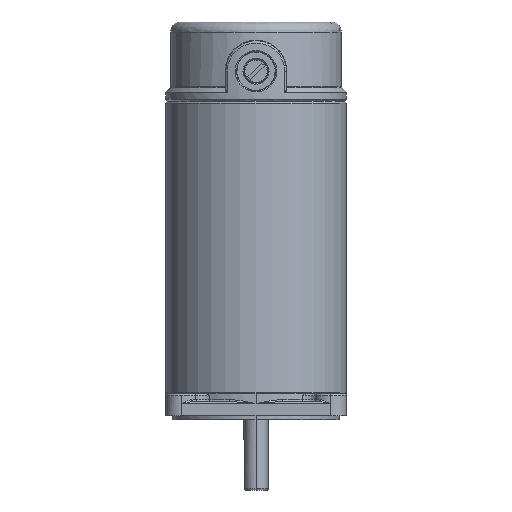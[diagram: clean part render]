
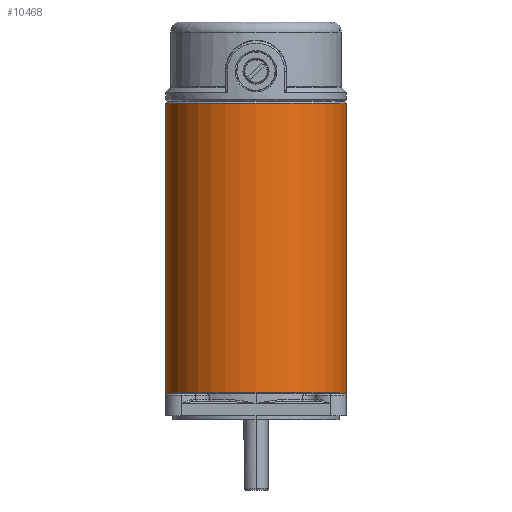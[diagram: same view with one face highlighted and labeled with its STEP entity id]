
A CAD part, left-side view. The second image highlights one B-rep face of the part: STEP entity #10468.
In plain terms, the highlighted cylindrical face has radius 45 mm (diameter 90 mm), a partial arc.
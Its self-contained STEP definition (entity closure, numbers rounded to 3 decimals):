
#626 = DIRECTION ( 'NONE',  ( 0., 0., -1. ) ) ;
#866 = AXIS2_PLACEMENT_3D ( 'NONE', #8576, #20393, #13244 ) ;
#1494 = CIRCLE ( 'NONE', #5364, 45. ) ;
#1718 = LINE ( 'NONE', #12099, #4807 ) ;
#2005 = ORIENTED_EDGE ( 'NONE', *, *, #15733, .T. ) ;
#3408 = VECTOR ( 'NONE', #626, 1000. ) ;
#4736 = CARTESIAN_POINT ( 'NONE',  ( 26.691, 61.063, 220.101 ) ) ;
#4807 = VECTOR ( 'NONE', #9887, 1000. ) ;
#5364 = AXIS2_PLACEMENT_3D ( 'NONE', #11398, #13059, #13824 ) ;
#5490 = LINE ( 'NONE', #15663, #3408 ) ;
#5842 = DIRECTION ( 'NONE',  ( 0., 0., -1. ) ) ;
#6084 = VERTEX_POINT ( 'NONE', #14912 ) ;
#6321 = DIRECTION ( 'NONE',  ( 0., 0., -1. ) ) ;
#6692 = VERTEX_POINT ( 'NONE', #4736 ) ;
#6855 = CIRCLE ( 'NONE', #866, 45. ) ;
#7822 = CIRCLE ( 'NONE', #11365, 45. ) ;
#8576 = CARTESIAN_POINT ( 'NONE',  ( 26.691, 16.063, 220.101 ) ) ;
#9887 = DIRECTION ( 'NONE',  ( 0., 0., -1. ) ) ;
#10468 = ADVANCED_FACE ( 'NONE', ( #17809 ), #11412, .T. ) ;
#10915 = EDGE_CURVE ( 'NONE', #6692, #10938, #5490, .T. ) ;
#10938 = VERTEX_POINT ( 'NONE', #18612 ) ;
#10939 = EDGE_CURVE ( 'NONE', #12343, #6084, #1718, .T. ) ;
#11365 = AXIS2_PLACEMENT_3D ( 'NONE', #14034, #5842, #20757 ) ;
#11398 = CARTESIAN_POINT ( 'NONE',  ( 26.691, 16.063, 75.929 ) ) ;
#11412 = CYLINDRICAL_SURFACE ( 'NONE', #20779, 45. ) ;
#12099 = CARTESIAN_POINT ( 'NONE',  ( 26.691, -28.937, 220.929 ) ) ;
#12343 = VERTEX_POINT ( 'NONE', #14546 ) ;
#12987 = ORIENTED_EDGE ( 'NONE', *, *, #15517, .T. ) ;
#13059 = DIRECTION ( 'NONE',  ( 0., 0., 1. ) ) ;
#13138 = EDGE_CURVE ( 'NONE', #21154, #6692, #6855, .T. ) ;
#13244 = DIRECTION ( 'NONE',  ( 0., 1., 0. ) ) ;
#13664 = ORIENTED_EDGE ( 'NONE', *, *, #10915, .T. ) ;
#13824 = DIRECTION ( 'NONE',  ( 0., 1., 0. ) ) ;
#14034 = CARTESIAN_POINT ( 'NONE',  ( 26.691, 16.063, 220.101 ) ) ;
#14546 = CARTESIAN_POINT ( 'NONE',  ( 26.691, -28.937, 220.101 ) ) ;
#14912 = CARTESIAN_POINT ( 'NONE',  ( 26.691, -28.937, 75.929 ) ) ;
#15517 = EDGE_CURVE ( 'NONE', #10938, #6084, #1494, .T. ) ;
#15536 = ORIENTED_EDGE ( 'NONE', *, *, #10939, .F. ) ;
#15663 = CARTESIAN_POINT ( 'NONE',  ( 26.691, 61.063, 220.929 ) ) ;
#15733 = EDGE_CURVE ( 'NONE', #12343, #21154, #7822, .T. ) ;
#15949 = DIRECTION ( 'NONE',  ( 0., 1., 0. ) ) ;
#16154 = CARTESIAN_POINT ( 'NONE',  ( 26.691, 16.063, 220.929 ) ) ;
#16166 = ORIENTED_EDGE ( 'NONE', *, *, #13138, .T. ) ;
#16460 = CARTESIAN_POINT ( 'NONE',  ( -18.309, 16.063, 220.101 ) ) ;
#17809 = FACE_OUTER_BOUND ( 'NONE', #20548, .T. ) ;
#18612 = CARTESIAN_POINT ( 'NONE',  ( 26.691, 61.063, 75.929 ) ) ;
#20393 = DIRECTION ( 'NONE',  ( 0., 0., -1. ) ) ;
#20548 = EDGE_LOOP ( 'NONE', ( #15536, #2005, #16166, #13664, #12987 ) ) ;
#20757 = DIRECTION ( 'NONE',  ( 0., 1., 0. ) ) ;
#20779 = AXIS2_PLACEMENT_3D ( 'NONE', #16154, #6321, #15949 ) ;
#21154 = VERTEX_POINT ( 'NONE', #16460 ) ;
